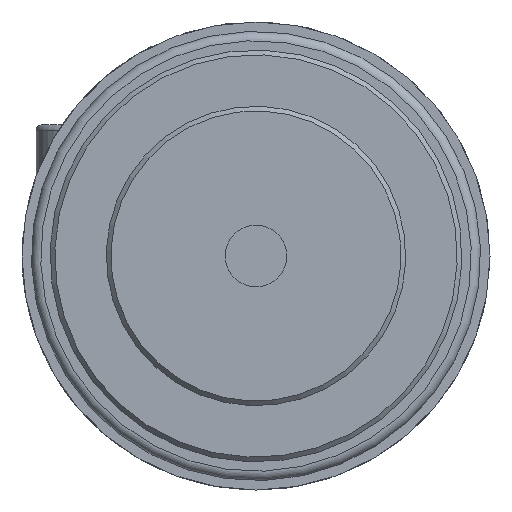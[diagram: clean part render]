
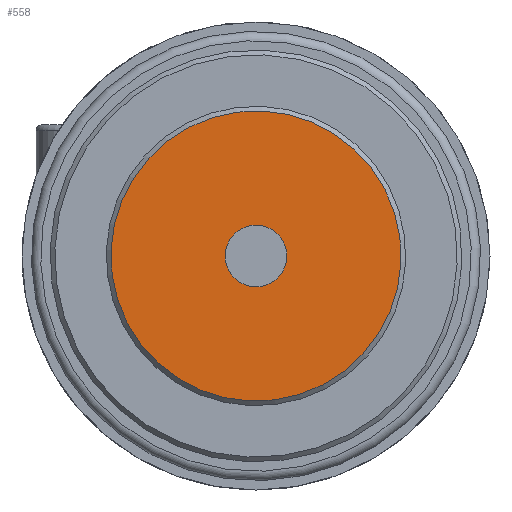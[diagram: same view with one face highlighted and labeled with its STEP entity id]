
A CAD part, left-side view. The second image highlights one B-rep face of the part: STEP entity #558.
In plain terms, the highlighted planar face has unit normal (-1, 0, 0) as drawn and (1, 0, 0) by its records, which use the part's own axes.
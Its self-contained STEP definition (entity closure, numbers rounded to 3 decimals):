
#558 = ADVANCED_FACE( '', ( #1187, #1188 ), #1189, .T. );
#1187 = FACE_OUTER_BOUND( '', #1887, .T. );
#1188 = FACE_BOUND( '', #1888, .T. );
#1189 = PLANE( '', #1889 );
#1887 = EDGE_LOOP( '', ( #3033 ) );
#1888 = EDGE_LOOP( '', ( #3034 ) );
#1889 = AXIS2_PLACEMENT_3D( '', #3035, #3036, #3037 );
#3033 = ORIENTED_EDGE( '', *, *, #3952, .T. );
#3034 = ORIENTED_EDGE( '', *, *, #3790, .T. );
#3035 = CARTESIAN_POINT( '', ( 19., 0., 8. ) );
#3036 = DIRECTION( '', ( 1., 0., 0. ) );
#3037 = DIRECTION( '', ( 0., 0., -1. ) );
#3790 = EDGE_CURVE( '', #4454, #4454, #4455, .T. );
#3952 = EDGE_CURVE( '', #4693, #4693, #4694, .T. );
#4454 = VERTEX_POINT( '', #5331 );
#4455 = CIRCLE( '', #5332, 1.65 );
#4693 = VERTEX_POINT( '', #5679 );
#4694 = CIRCLE( '', #5680, 7.75 );
#5331 = CARTESIAN_POINT( '', ( 19., 0., 1.65 ) );
#5332 = AXIS2_PLACEMENT_3D( '', #6276, #6277, #6278 );
#5679 = CARTESIAN_POINT( '', ( 19., 0., -7.75 ) );
#5680 = AXIS2_PLACEMENT_3D( '', #6554, #6555, #6556 );
#6276 = CARTESIAN_POINT( '', ( 19., 0., 0. ) );
#6277 = DIRECTION( '', ( -1., 0., 0. ) );
#6278 = DIRECTION( '', ( 0., 0., 1. ) );
#6554 = CARTESIAN_POINT( '', ( 19., 0., 0. ) );
#6555 = DIRECTION( '', ( 1., 0., 0. ) );
#6556 = DIRECTION( '', ( 0., 0., -1. ) );
